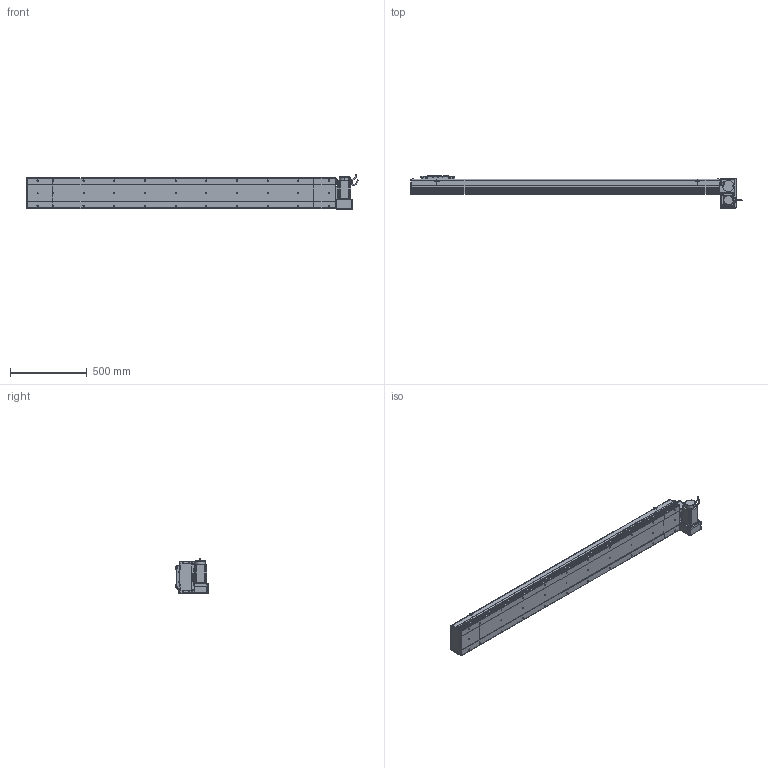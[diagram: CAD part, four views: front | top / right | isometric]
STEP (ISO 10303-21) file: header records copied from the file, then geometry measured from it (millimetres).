
FILE_DESCRIPTION (( 'STEP AP214' ), '1' );
FILE_NAME ('D20 CBH RU S1700.STEP', '2010-06-30T09:37:55', ( 'Conseil Régional Haute-Normandie' ), ( 'Conseil Régional Haute-Normandie' ), 'SwSTEP 2.0', 'SolidWorks 2010', '' );
FILE_SCHEMA (( 'AUTOMOTIVE_DESIGN' ));
Length unit declared in the file: millimetre
Products named in the file (31): Corp S1700_Default; D20 CBH RU S1700; Plaque de Bout Head D20 RU_Default; Head RU_Default; Corp D20 S1700_Default; Glissiere_Default; Support moteur RU_Default; Chariot D20_Default; Corp Tail D20 RU_Default; Support Chariot D20_Default; Plaque De Serrage D20 RU_Default; Couvercle RU_Default; vis M5 L47_Default; Cache Support Moteur RU_Default; ecrou_Default; vis M5 L30_Default; Conecteur_Default; Rondelle Cache D20 RU_Default; corps 90BLDC125A-640; avant 90BLDC125A-640; Moteur motionking 90BLDC125A-640; Conecteur2_Default; codeur 90BLDC125-640; vis M5 L15_Default; Plaque De Serrage D20_Default; Plaque de Bout Tail D20_Default; Tail D20+100_Default; Couvercle S1700_Default; Couvercle_Default; Corp Tail D20+100_Default
Assembly tree (66 placements, depth 4):
  D20 CBH RU S1700
    Corp D20 S1700_Default
      Corp S1700_Default
      Couvercle S1700_Default
    Head RU_Default
      vis M5 L47_Default  x4
      vis M5 L15_Default  x12
      Moteur motionking 90BLDC125A-640
        Conecteur_Default
        avant 90BLDC125A-640
        corps 90BLDC125A-640
        codeur 90BLDC125-640
        Conecteur2_Default
      Cache Support Moteur RU_Default
      Corp Tail D20 RU_Default
      ecrou_Default  x4
      vis M5 L30_Default  x4
      Rondelle Cache D20 RU_Default  x3
      Support moteur RU_Default
      Couvercle RU_Default
      Plaque De Serrage D20 RU_Default
      Plaque de Bout Head D20 RU_Default
    Tail D20+100_Default
      Couvercle_Default
      vis M5 L15_Default  x6
      Plaque de Bout Tail D20_Default
      Plaque De Serrage D20_Default
      Corp Tail D20+100_Default
    Chariot D20_Default
      vis M5 L15_Default  x8
      Support Chariot D20_Default
      Glissiere_Default
      Chariot D20_Default
Bounding box: 2164.45 x 209 x 229.7 mm (x, y, z)
Volume: 15027849.4 mm3; surface area: 2958829.7 mm2
Topology: 103 solids, 103 shells, 3763 faces, 9398 edges, 6106 vertices
Faces by surface type: plane 2096, bspline 806, cylinder 698, torus 91, cone 68, sphere 4
Entity records: 159334 total; most frequent: CARTESIAN_POINT 82305, ORIENTED_EDGE 15264, DIRECTION 11586, EDGE_CURVE 7632, VERTEX_POINT 5050, VECTOR 4948, LINE 4948, AXIS2_PLACEMENT_3D 3319
